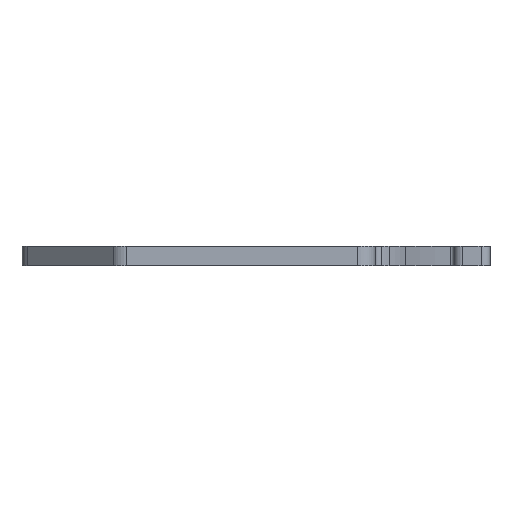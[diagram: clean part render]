
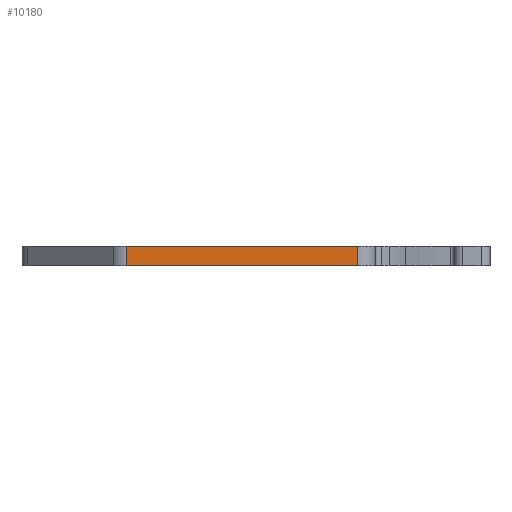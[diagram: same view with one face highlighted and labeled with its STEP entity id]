
A CAD part, left-side view. The second image highlights one B-rep face of the part: STEP entity #10180.
In plain terms, the highlighted planar face has unit normal (-1, 0, 0).
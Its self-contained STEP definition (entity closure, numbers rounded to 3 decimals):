
#550=CARTESIAN_POINT('',(-24.05,33.972,0.7));
#560=VERTEX_POINT('',#550);
#590=CARTESIAN_POINT('',(-24.05,0.,0.7));
#600=DIRECTION('',(0.,1.,0.));
#610=VECTOR('',#600,1.);
#620=LINE('',#590,#610);
#630=CARTESIAN_POINT('',(-24.05,8.,0.7));
#640=VERTEX_POINT('',#630);
#650=EDGE_CURVE('',#640,#560,#620,.T.);
#7970=CARTESIAN_POINT('',(-24.05,8.,2.9));
#7980=VERTEX_POINT('',#7970);
#8010=CARTESIAN_POINT('',(-24.05,0.,2.9));
#8020=DIRECTION('',(0.,1.,0.));
#8030=VECTOR('',#8020,1.);
#8040=LINE('',#8010,#8030);
#8050=CARTESIAN_POINT('',(-24.05,33.972,2.9));
#8060=VERTEX_POINT('',#8050);
#8070=EDGE_CURVE('',#7980,#8060,#8040,.T.);
#9920=CARTESIAN_POINT('',(-24.05,33.972,0.7));
#9930=DIRECTION('',(-0.,-0.,-1.));
#9940=VECTOR('',#9930,1.);
#9950=LINE('',#9920,#9940);
#9960=EDGE_CURVE('',#8060,#560,#9950,.T.);
#10020=CARTESIAN_POINT('',(-24.05,28.1,0.7));
#10030=DIRECTION('',(-1.,0.,0.));
#10040=DIRECTION('',(0.,1.,0.));
#10050=AXIS2_PLACEMENT_3D('',#10020,#10030,#10040);
#10060=PLANE('',#10050);
#10070=ORIENTED_EDGE('',*,*,#9960,.T.);
#10080=ORIENTED_EDGE('',*,*,#8070,.T.);
#10090=CARTESIAN_POINT('',(-24.05,8.,0.7));
#10100=DIRECTION('',(-0.,-0.,-1.));
#10110=VECTOR('',#10100,1.);
#10120=LINE('',#10090,#10110);
#10130=EDGE_CURVE('',#7980,#640,#10120,.T.);
#10140=ORIENTED_EDGE('',*,*,#10130,.F.);
#10150=ORIENTED_EDGE('',*,*,#650,.F.);
#10160=EDGE_LOOP('',(#10150,#10140,#10080,#10070));
#10170=FACE_OUTER_BOUND('',#10160,.T.);
#10180=ADVANCED_FACE('',(#10170),#10060,.T.);
